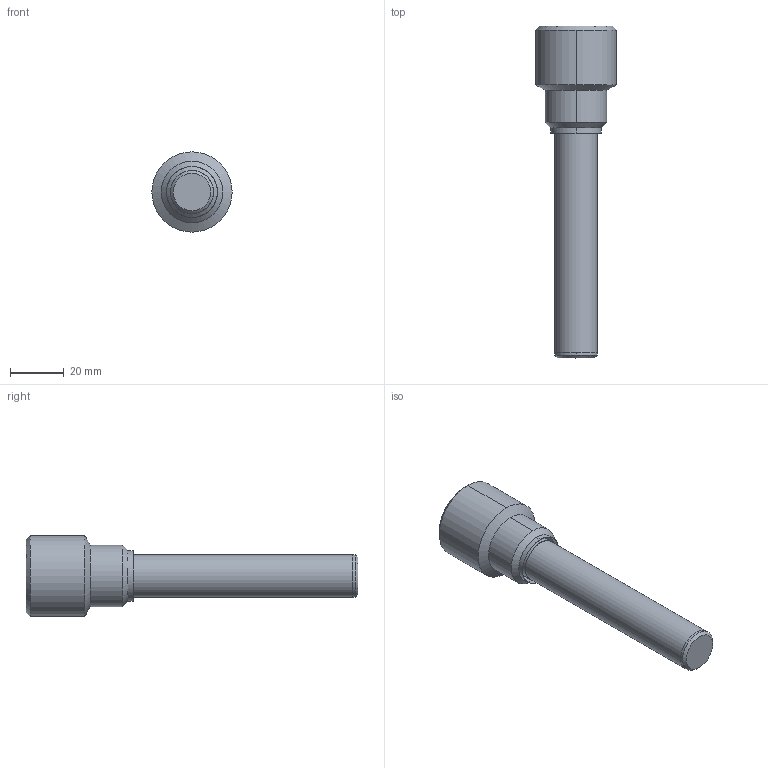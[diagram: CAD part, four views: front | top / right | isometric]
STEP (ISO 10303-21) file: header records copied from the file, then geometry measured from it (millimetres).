
FILE_DESCRIPTION(('TFLEX Exchange Step'),'2;1');
FILE_NAME('_Гильза ГЗ202-d10-P16-(M22)-H-M01.stp', '2020-10-06T20:29:11+05:00',('Алексей'),('Unknown organisation'),'TFLEX Exchange 2019.1','T-FLEX CAD','Unknown authorisation');
FILE_SCHEMA( ('AUTOMOTIVE_DESIGN { 1 0 10303 214 1 1 1 1 }') );
Length unit declared in the file: millimetre
Products named in the file (4): Труба Т-16х1.5-L-01; Штуцер Ш-22х1.5-02; Заглушка З-16х1.5-01; _Гильза ГЗ202-d10-P16-(M22)-H-M01
Assembly tree (3 placements, depth 2):
  _Гильза ГЗ202-d10-P16-(M22)-H-M01
    Труба Т-16х1.5-L-01
    Штуцер Ш-22х1.5-02
    Заглушка З-16х1.5-01
Bounding box: 30 x 124 x 30 mm (x, y, z)
Volume: 19305.5 mm3; surface area: 15216.2 mm2
Topology: 3 solids, 3 shells, 33 faces, 69 edges, 40 vertices
Faces by surface type: cylinder 18, plane 8, cone 7
Full cylindrical faces by diameter (mm): 13 x1, 16 x1
Entity records: 1000 total; most frequent: DIRECTION 191, CARTESIAN_POINT 153, ORIENTED_EDGE 142, AXIS2_PLACEMENT_3D 80, EDGE_CURVE 71, VERTEX_POINT 42, CIRCLE 40, EDGE_LOOP 35
